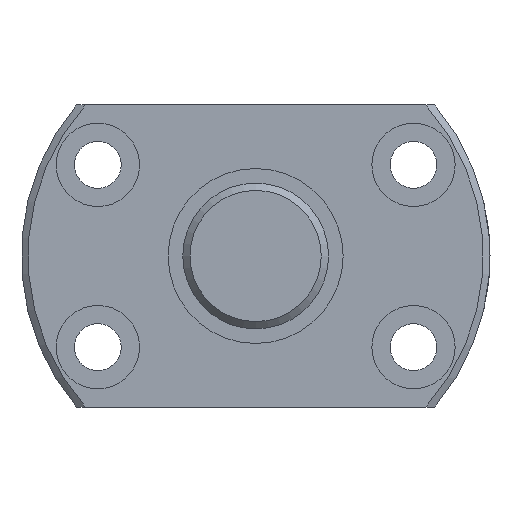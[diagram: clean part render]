
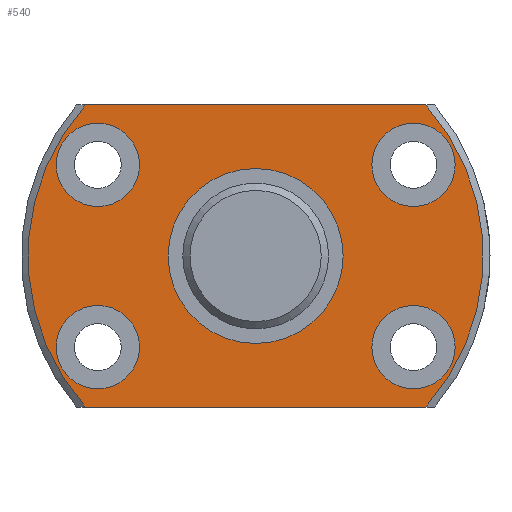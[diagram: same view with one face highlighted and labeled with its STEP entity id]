
A CAD part, left-side view. The second image highlights one B-rep face of the part: STEP entity #540.
In plain terms, the highlighted planar face has unit normal (-1, 0, 0).
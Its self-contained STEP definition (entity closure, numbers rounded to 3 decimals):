
#28=LINE('',#893,#36);
#29=LINE('',#898,#37);
#36=VECTOR('',#721,1000.);
#37=VECTOR('',#724,1000.);
#91=ORIENTED_EDGE('',*,*,#207,.T.);
#92=ORIENTED_EDGE('',*,*,#208,.T.);
#93=ORIENTED_EDGE('',*,*,#209,.T.);
#94=ORIENTED_EDGE('',*,*,#210,.T.);
#95=ORIENTED_EDGE('',*,*,#211,.T.);
#96=ORIENTED_EDGE('',*,*,#212,.F.);
#97=ORIENTED_EDGE('',*,*,#213,.T.);
#98=ORIENTED_EDGE('',*,*,#214,.F.);
#99=ORIENTED_EDGE('',*,*,#215,.T.);
#207=EDGE_CURVE('',#267,#267,#319,.T.);
#208=EDGE_CURVE('',#268,#268,#320,.T.);
#209=EDGE_CURVE('',#269,#269,#321,.T.);
#210=EDGE_CURVE('',#270,#270,#322,.T.);
#211=EDGE_CURVE('',#271,#271,#323,.T.);
#212=EDGE_CURVE('',#272,#273,#28,.T.);
#213=EDGE_CURVE('',#272,#274,#324,.F.);
#214=EDGE_CURVE('',#275,#274,#29,.T.);
#215=EDGE_CURVE('',#275,#273,#325,.F.);
#267=VERTEX_POINT('',#884);
#268=VERTEX_POINT('',#886);
#269=VERTEX_POINT('',#888);
#270=VERTEX_POINT('',#890);
#271=VERTEX_POINT('',#892);
#272=VERTEX_POINT('',#894);
#273=VERTEX_POINT('',#895);
#274=VERTEX_POINT('',#897);
#275=VERTEX_POINT('',#899);
#319=CIRCLE('',#613,8.4);
#320=CIRCLE('',#614,4.);
#321=CIRCLE('',#615,4.);
#322=CIRCLE('',#616,4.);
#323=CIRCLE('',#617,4.);
#324=CIRCLE('',#618,21.85);
#325=CIRCLE('',#619,21.85);
#365=EDGE_LOOP('',(#91));
#366=EDGE_LOOP('',(#92));
#367=EDGE_LOOP('',(#93));
#368=EDGE_LOOP('',(#94));
#369=EDGE_LOOP('',(#95));
#370=EDGE_LOOP('',(#96,#97,#98,#99));
#447=FACE_BOUND('',#365,.T.);
#448=FACE_BOUND('',#366,.T.);
#449=FACE_BOUND('',#367,.T.);
#450=FACE_BOUND('',#368,.T.);
#451=FACE_BOUND('',#369,.T.);
#452=FACE_BOUND('',#370,.T.);
#523=PLANE('',#612);
#540=ADVANCED_FACE('',(#447,#448,#449,#450,#451,#452),#523,.F.);
#612=AXIS2_PLACEMENT_3D('',#882,#709,#710);
#613=AXIS2_PLACEMENT_3D('',#883,#711,#712);
#614=AXIS2_PLACEMENT_3D('',#885,#713,#714);
#615=AXIS2_PLACEMENT_3D('',#887,#715,#716);
#616=AXIS2_PLACEMENT_3D('',#889,#717,#718);
#617=AXIS2_PLACEMENT_3D('',#891,#719,#720);
#618=AXIS2_PLACEMENT_3D('',#896,#722,#723);
#619=AXIS2_PLACEMENT_3D('',#900,#725,#726);
#709=DIRECTION('',(1.,0.,0.));
#710=DIRECTION('',(0.,0.,-1.));
#711=DIRECTION('',(1.,0.,0.));
#712=DIRECTION('',(0.,0.,-1.));
#713=DIRECTION('',(1.,0.,0.));
#714=DIRECTION('',(0.,0.,-1.));
#715=DIRECTION('',(1.,0.,0.));
#716=DIRECTION('',(0.,0.,-1.));
#717=DIRECTION('',(1.,0.,0.));
#718=DIRECTION('',(0.,0.,-1.));
#719=DIRECTION('',(1.,0.,0.));
#720=DIRECTION('',(0.,0.,-1.));
#721=DIRECTION('',(0.,1.,0.));
#722=DIRECTION('',(1.,0.,0.));
#723=DIRECTION('',(0.,0.,-1.));
#724=DIRECTION('',(0.,-1.,0.));
#725=DIRECTION('',(1.,0.,0.));
#726=DIRECTION('',(0.,0.,-1.));
#882=CARTESIAN_POINT('',(0.,0.,0.));
#883=CARTESIAN_POINT('',(0.,0.,0.));
#884=CARTESIAN_POINT('',(0.,0.,-8.4));
#885=CARTESIAN_POINT('',(0.,15.155,8.75));
#886=CARTESIAN_POINT('',(0.,15.155,4.75));
#887=CARTESIAN_POINT('',(0.,-15.155,-8.75));
#888=CARTESIAN_POINT('',(0.,-15.155,-12.75));
#889=CARTESIAN_POINT('',(0.,15.155,-8.75));
#890=CARTESIAN_POINT('',(0.,15.155,-12.75));
#891=CARTESIAN_POINT('',(0.,-15.155,8.75));
#892=CARTESIAN_POINT('',(0.,-15.155,4.75));
#893=CARTESIAN_POINT('',(0.,-17.205,-14.5));
#894=CARTESIAN_POINT('',(0.,-16.345,-14.5));
#895=CARTESIAN_POINT('',(0.,16.345,-14.5));
#896=CARTESIAN_POINT('',(0.,0.,0.));
#897=CARTESIAN_POINT('',(0.,-16.345,14.5));
#898=CARTESIAN_POINT('',(0.,17.205,14.5));
#899=CARTESIAN_POINT('',(0.,16.345,14.5));
#900=CARTESIAN_POINT('',(0.,0.,0.));
